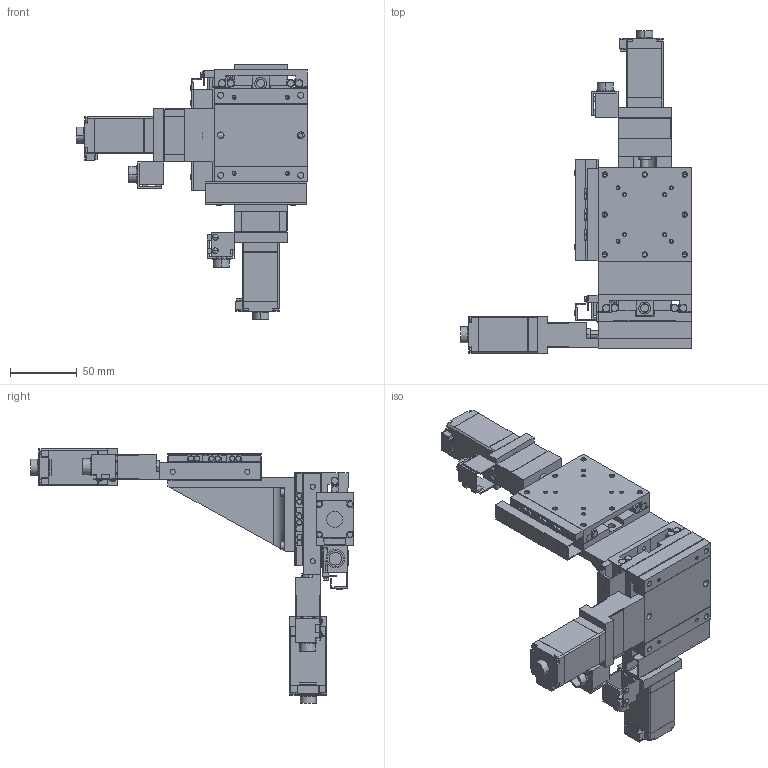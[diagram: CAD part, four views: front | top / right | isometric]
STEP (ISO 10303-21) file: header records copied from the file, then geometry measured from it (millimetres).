
FILE_DESCRIPTION(('STEP AP203'),'1');
FILE_NAME('C:/3D-Trans/3D_PMZG715M-L□-D+240129.step','2024-03-14T04:55:32',(' '),(' '),'Spatial InterOp 3D',' ',' ');
FILE_SCHEMA(('CONFIG_CONTROL_DESIGN'));
Length unit declared in the file: millimetre
Products named in the file (19): 1; 2; 3; 4; 5; 6; 7; 8; 9; 10; 11; 12; 13; 14; 15; 16; 17; 18; 19
Bounding box: 173 x 242 x 191 mm (x, y, z)
Volume: 531986.8 mm3; surface area: 212225.2 mm2
Topology: 19 solids, 19 shells, 2045 faces, 5239 edges, 3315 vertices
Faces by surface type: plane 1169, cylinder 628, cone 236, sphere 12
Entity records: 62359 total; most frequent: DIRECTION 10949, CARTESIAN_POINT 10546, ORIENTED_EDGE 10334, EDGE_CURVE 5167, AXIS2_PLACEMENT_3D 3718, LINE 3513, VECTOR 3513, VERTEX_POINT 3315
